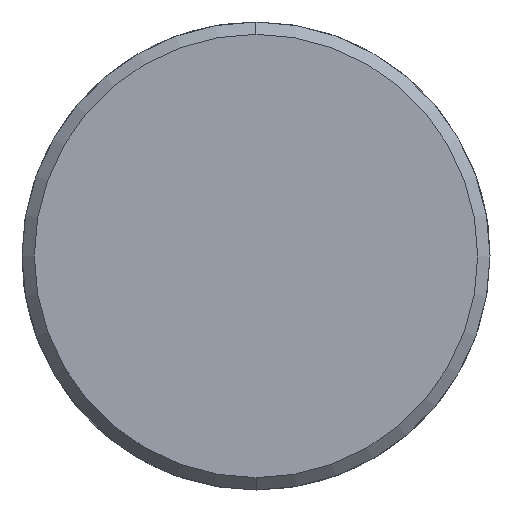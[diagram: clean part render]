
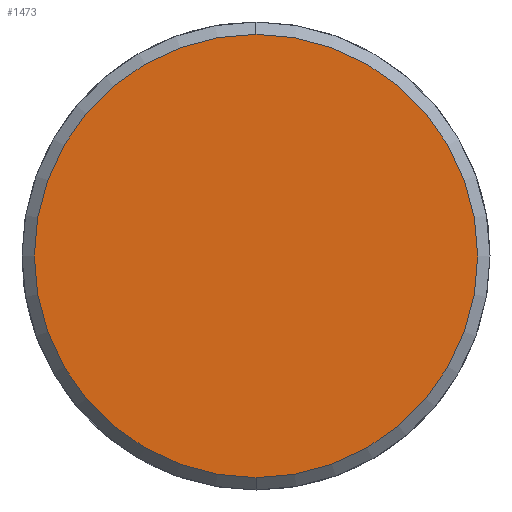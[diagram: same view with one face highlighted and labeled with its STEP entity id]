
A CAD part, left-side view. The second image highlights one B-rep face of the part: STEP entity #1473.
In plain terms, the highlighted planar face has unit normal (-1, 0, 0).
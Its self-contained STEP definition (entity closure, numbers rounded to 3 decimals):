
#1405=CARTESIAN_POINT('Vertex',(-7.,0.,-18.)) ;
#1408=CARTESIAN_POINT('Axis2P3D Location',(-7.,0.,0.)) ;
#1412=CARTESIAN_POINT('Vertex',(-7.,18.,0.)) ;
#1415=CARTESIAN_POINT('Axis2P3D Location',(-7.,0.,0.)) ;
#1419=CARTESIAN_POINT('Vertex',(-7.,0.,18.)) ;
#1441=CARTESIAN_POINT('Axis2P3D Location',(-7.,0.,0.)) ;
#1445=CARTESIAN_POINT('Vertex',(-7.,-18.,0.)) ;
#1448=CARTESIAN_POINT('Axis2P3D Location',(-7.,0.,0.)) ;
#1462=CARTESIAN_POINT('Axis2P3D Location',(-7.,0.,0.)) ;
#1409=DIRECTION('Axis2P3D Direction',(1.,0.,-0.)) ;
#1416=DIRECTION('Axis2P3D Direction',(1.,0.,-0.)) ;
#1442=DIRECTION('Axis2P3D Direction',(1.,0.,-0.)) ;
#1449=DIRECTION('Axis2P3D Direction',(1.,0.,-0.)) ;
#1463=DIRECTION('Axis2P3D Direction',(1.,0.,-0.)) ;
#1464=DIRECTION('Axis2P3D XDirection',(-0.,0.,-1.)) ;
#1410=AXIS2_PLACEMENT_3D('Circle Axis2P3D',#1408,#1409,$) ;
#1417=AXIS2_PLACEMENT_3D('Circle Axis2P3D',#1415,#1416,$) ;
#1443=AXIS2_PLACEMENT_3D('Circle Axis2P3D',#1441,#1442,$) ;
#1450=AXIS2_PLACEMENT_3D('Circle Axis2P3D',#1448,#1449,$) ;
#1465=AXIS2_PLACEMENT_3D('Plane Axis2P3D',#1462,#1463,#1464) ;
#1468=ORIENTED_EDGE('',*,*,#1414,.F.) ;
#1469=ORIENTED_EDGE('',*,*,#1452,.F.) ;
#1470=ORIENTED_EDGE('',*,*,#1447,.F.) ;
#1471=ORIENTED_EDGE('',*,*,#1421,.F.) ;
#1473=ADVANCED_FACE('351-25X116X280',(#1472),#1466,.F.) ;
#1411=CIRCLE('generated circle',#1410,18.) ;
#1418=CIRCLE('generated circle',#1417,18.) ;
#1444=CIRCLE('generated circle',#1443,18.) ;
#1451=CIRCLE('generated circle',#1450,18.) ;
#1414=EDGE_CURVE('',#1406,#1413,#1411,.T.) ;
#1421=EDGE_CURVE('',#1413,#1420,#1418,.T.) ;
#1447=EDGE_CURVE('',#1420,#1446,#1444,.T.) ;
#1452=EDGE_CURVE('',#1446,#1406,#1451,.T.) ;
#1467=EDGE_LOOP('',(#1468,#1469,#1470,#1471)) ;
#1472=FACE_OUTER_BOUND('',#1467,.T.) ;
#1466=PLANE('Plane',#1465) ;
#1406=VERTEX_POINT('',#1405) ;
#1413=VERTEX_POINT('',#1412) ;
#1420=VERTEX_POINT('',#1419) ;
#1446=VERTEX_POINT('',#1445) ;
